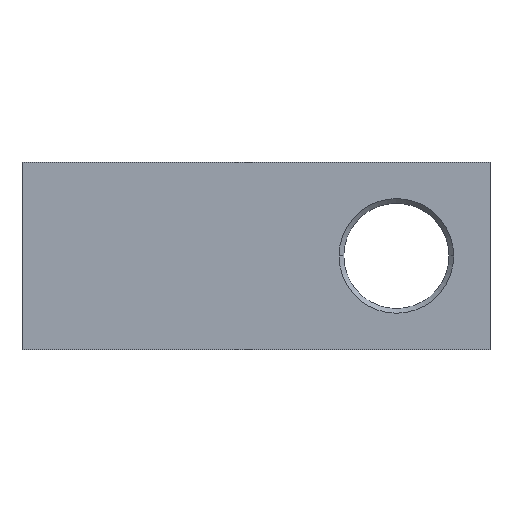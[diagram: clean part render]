
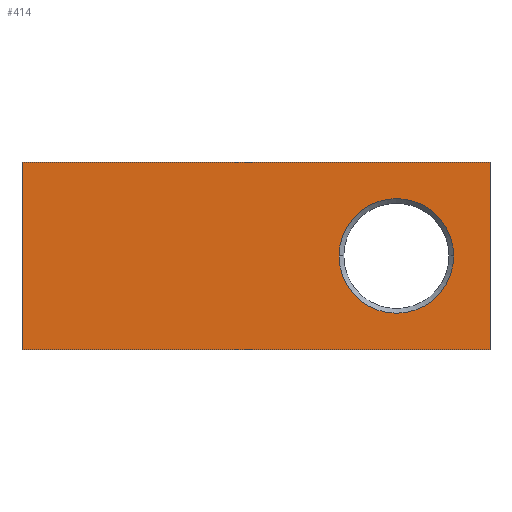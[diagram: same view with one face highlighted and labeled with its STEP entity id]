
A CAD part, top view. The second image highlights one B-rep face of the part: STEP entity #414.
In plain terms, the highlighted planar face has unit normal (0, 0, 1).
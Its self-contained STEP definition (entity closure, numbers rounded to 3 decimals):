
#2 = ORIENTED_EDGE ( 'NONE', *, *, #1089, .T. ) ;
#10 = CARTESIAN_POINT ( 'NONE',  ( 50., 20., 15. ) ) ;
#33 = CARTESIAN_POINT ( 'NONE',  ( 30., 0., 15. ) ) ;
#42 = CARTESIAN_POINT ( 'NONE',  ( 30., 0., 15. ) ) ;
#58 = CARTESIAN_POINT ( 'NONE',  ( 50., -20., 15. ) ) ;
#67 = DIRECTION ( 'NONE',  ( -1., 0., 0. ) ) ;
#77 = FACE_OUTER_BOUND ( 'NONE', #132, .T. ) ;
#78 = EDGE_CURVE ( 'NONE', #545, #632, #847, .T. ) ;
#132 = EDGE_LOOP ( 'NONE', ( #528, #2, #665, #302 ) ) ;
#182 = AXIS2_PLACEMENT_3D ( 'NONE', #33, #378, #726 ) ;
#206 = CARTESIAN_POINT ( 'NONE',  ( -50., 20., 15. ) ) ;
#231 = CIRCLE ( 'NONE', #182, 12.25 ) ;
#232 = LINE ( 'NONE', #246, #364 ) ;
#242 = EDGE_LOOP ( 'NONE', ( #874, #657 ) ) ;
#246 = CARTESIAN_POINT ( 'NONE',  ( -50., 20., 15. ) ) ;
#285 = AXIS2_PLACEMENT_3D ( 'NONE', #42, #646, #300 ) ;
#300 = DIRECTION ( 'NONE',  ( -1., 0., 0. ) ) ;
#302 = ORIENTED_EDGE ( 'NONE', *, *, #611, .T. ) ;
#364 = VECTOR ( 'NONE', #67, 1000. ) ;
#372 = VECTOR ( 'NONE', #503, 1000. ) ;
#378 = DIRECTION ( 'NONE',  ( 0., 0., -1. ) ) ;
#414 = ADVANCED_FACE ( 'NONE', ( #834, #77 ), #495, .F. ) ;
#434 = VECTOR ( 'NONE', #748, 1000. ) ;
#456 = EDGE_CURVE ( 'NONE', #682, #849, #587, .T. ) ;
#495 = PLANE ( 'NONE',  #604 ) ;
#502 = CARTESIAN_POINT ( 'NONE',  ( 42.25, 0., 15. ) ) ;
#503 = DIRECTION ( 'NONE',  ( 0., 1., 0. ) ) ;
#528 = ORIENTED_EDGE ( 'NONE', *, *, #456, .T. ) ;
#538 = EDGE_CURVE ( 'NONE', #683, #806, #743, .T. ) ;
#545 = VERTEX_POINT ( 'NONE', #206 ) ;
#571 = CARTESIAN_POINT ( 'NONE',  ( 0., 0., 15. ) ) ;
#587 = LINE ( 'NONE', #58, #372 ) ;
#604 = AXIS2_PLACEMENT_3D ( 'NONE', #571, #677, #1105 ) ;
#611 = EDGE_CURVE ( 'NONE', #632, #682, #739, .T. ) ;
#632 = VERTEX_POINT ( 'NONE', #1084 ) ;
#646 = DIRECTION ( 'NONE',  ( 0., 0., -1. ) ) ;
#657 = ORIENTED_EDGE ( 'NONE', *, *, #660, .T. ) ;
#660 = EDGE_CURVE ( 'NONE', #806, #683, #231, .T. ) ;
#665 = ORIENTED_EDGE ( 'NONE', *, *, #78, .T. ) ;
#677 = DIRECTION ( 'NONE',  ( 0., 0., -1. ) ) ;
#682 = VERTEX_POINT ( 'NONE', #758 ) ;
#683 = VERTEX_POINT ( 'NONE', #502 ) ;
#726 = DIRECTION ( 'NONE',  ( -1., 0., 0. ) ) ;
#739 = LINE ( 'NONE', #827, #434 ) ;
#743 = CIRCLE ( 'NONE', #285, 12.25 ) ;
#748 = DIRECTION ( 'NONE',  ( 1., 0., 0. ) ) ;
#758 = CARTESIAN_POINT ( 'NONE',  ( 50., -20., 15. ) ) ;
#806 = VERTEX_POINT ( 'NONE', #883 ) ;
#827 = CARTESIAN_POINT ( 'NONE',  ( -50., -20., 15. ) ) ;
#834 = FACE_BOUND ( 'NONE', #242, .T. ) ;
#847 = LINE ( 'NONE', #939, #971 ) ;
#849 = VERTEX_POINT ( 'NONE', #10 ) ;
#874 = ORIENTED_EDGE ( 'NONE', *, *, #538, .T. ) ;
#883 = CARTESIAN_POINT ( 'NONE',  ( 17.75, 0., 15. ) ) ;
#934 = DIRECTION ( 'NONE',  ( 0., -1., 0. ) ) ;
#939 = CARTESIAN_POINT ( 'NONE',  ( -50., -20., 15. ) ) ;
#971 = VECTOR ( 'NONE', #934, 1000. ) ;
#1084 = CARTESIAN_POINT ( 'NONE',  ( -50., -20., 15. ) ) ;
#1089 = EDGE_CURVE ( 'NONE', #849, #545, #232, .T. ) ;
#1105 = DIRECTION ( 'NONE',  ( -1., 0., 0. ) ) ;
